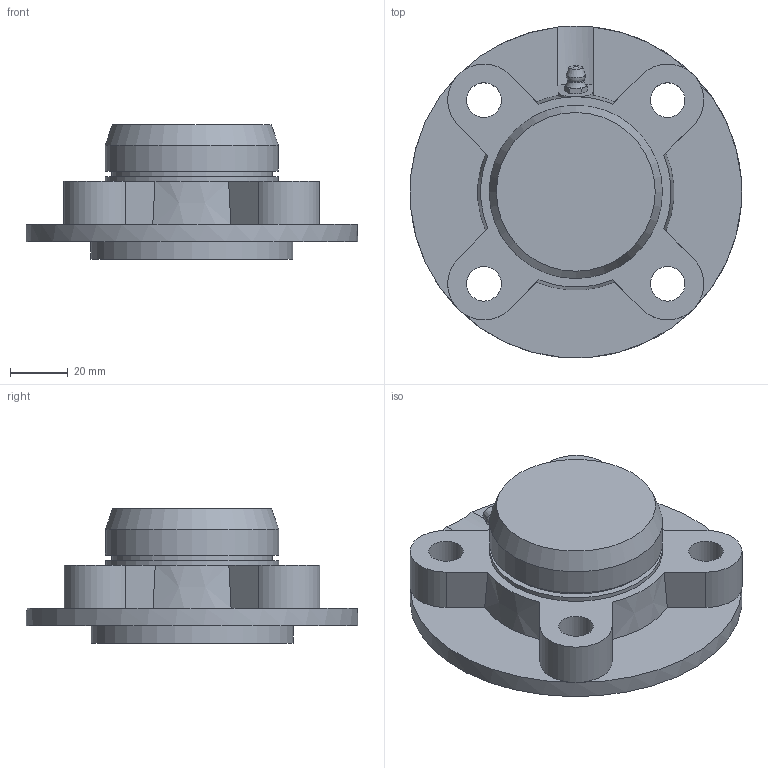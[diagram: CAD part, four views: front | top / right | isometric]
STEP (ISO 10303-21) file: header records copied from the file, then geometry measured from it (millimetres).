
FILE_DESCRIPTION((''),'2;1');
FILE_NAME('\\Ts-tgl068\j-cad-d-base\00.3DCADデータ作成フォルダ\02.フランジ形\UKFC200C(E)\UKFC205E+H.stp','2014-05-22T07:52:12',('btec_1106_2'),(''),'Autodesk Inventor 2012','Autodesk Inventor 2012','');
FILE_SCHEMA(('AUTOMOTIVE_DESIGN { 1 0 10303 214 1 1 1 1 }'));
Length unit declared in the file: millimetre
Products named in the file (5): UKFC200E+H; FC205C; 205CPE; UK205; GU1
Assembly tree (4 placements, depth 2):
  UKFC200E+H
    FC205C
    205CPE
    UK205
    GU1
Bounding box: 114.87 x 114.97 x 46.5 mm (x, y, z)
Volume: 144868.8 mm3; surface area: 59151.8 mm2
Topology: 4 solids, 4 shells, 201 faces, 512 edges, 331 vertices
Faces by surface type: plane 86, cone 55, cylinder 52, sphere 4, bspline 2, torus 2
Full cylindrical faces by diameter (mm): 5.359 x1, 6.35 x1, 12 x4, 20 x1, 34 x2, 54 x1, 55.6 x1, 58.4 x2, 60 x3, 70 x1, 115 x1
Entity records: 6006 total; most frequent: CARTESIAN_POINT 1374, ORIENTED_EDGE 948, DIRECTION 927, EDGE_CURVE 474, AXIS2_PLACEMENT_3D 385, VERTEX_POINT 320, EDGE_LOOP 257, FACE_OUTER_BOUND 201
